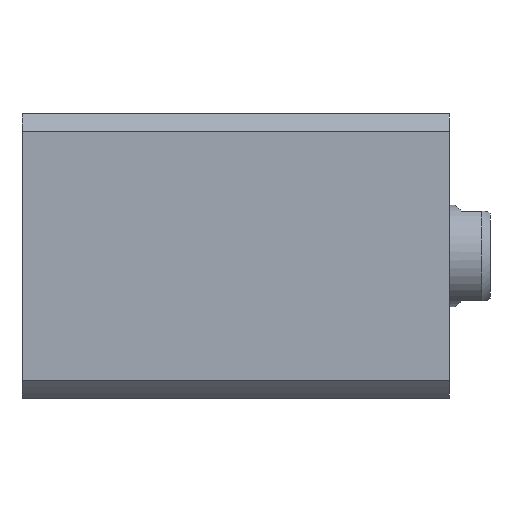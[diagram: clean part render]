
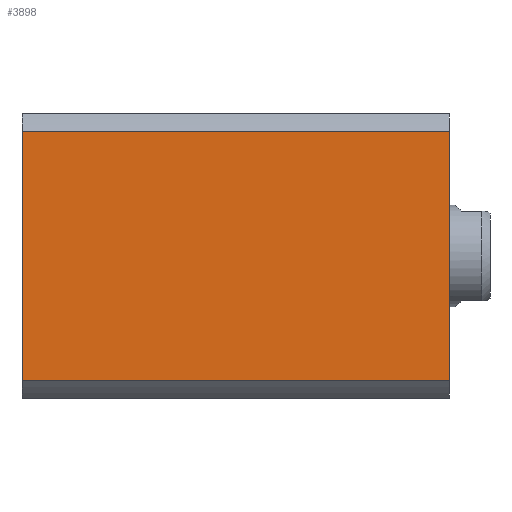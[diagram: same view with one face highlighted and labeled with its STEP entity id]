
A CAD part, left-side view. The second image highlights one B-rep face of the part: STEP entity #3898.
In plain terms, the highlighted planar face has unit normal (-1, 0, 0).
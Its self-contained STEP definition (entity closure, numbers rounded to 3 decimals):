
#107 = VECTOR ( 'NONE', #353, 1000. ) ;
#140 = CARTESIAN_POINT ( 'NONE',  ( -35., -30.615, 0. ) ) ;
#353 = DIRECTION ( 'NONE',  ( 0., -1., 0. ) ) ;
#478 = DIRECTION ( 'NONE',  ( 0., 1., 0. ) ) ;
#1538 = VECTOR ( 'NONE', #7499, 1000. ) ;
#1556 = FACE_OUTER_BOUND ( 'NONE', #7637, .T. ) ;
#1820 = EDGE_CURVE ( 'NONE', #7827, #5155, #6312, .T. ) ;
#1883 = CARTESIAN_POINT ( 'NONE',  ( -35., 35., 105. ) ) ;
#2199 = DIRECTION ( 'NONE',  ( 0., 0., 1. ) ) ;
#2263 = VECTOR ( 'NONE', #7771, 1000. ) ;
#2270 = ORIENTED_EDGE ( 'NONE', *, *, #9639, .T. ) ;
#2870 = CARTESIAN_POINT ( 'NONE',  ( -35., -30.615, 300. ) ) ;
#2954 = ORIENTED_EDGE ( 'NONE', *, *, #9985, .F. ) ;
#3210 = ORIENTED_EDGE ( 'NONE', *, *, #1820, .F. ) ;
#3226 = VERTEX_POINT ( 'NONE', #140 ) ;
#3398 = CARTESIAN_POINT ( 'NONE',  ( -35., 30.615, 0. ) ) ;
#3446 = ORIENTED_EDGE ( 'NONE', *, *, #4612, .F. ) ;
#3898 = ADVANCED_FACE ( 'NONE', ( #1556 ), #9738, .F. ) ;
#4612 = EDGE_CURVE ( 'NONE', #8824, #7827, #4844, .T. ) ;
#4844 = LINE ( 'NONE', #6060, #6637 ) ;
#5147 = DIRECTION ( 'NONE',  ( 1., 0., 0. ) ) ;
#5155 = VERTEX_POINT ( 'NONE', #8271 ) ;
#5677 = LINE ( 'NONE', #2870, #1538 ) ;
#6060 = CARTESIAN_POINT ( 'NONE',  ( -35., 30.615, 300. ) ) ;
#6312 = LINE ( 'NONE', #1883, #107 ) ;
#6637 = VECTOR ( 'NONE', #2199, 1000. ) ;
#6996 = CARTESIAN_POINT ( 'NONE',  ( -35., 35., 0. ) ) ;
#7429 = CARTESIAN_POINT ( 'NONE',  ( -35., 35., 105. ) ) ;
#7499 = DIRECTION ( 'NONE',  ( 0., 0., -1. ) ) ;
#7637 = EDGE_LOOP ( 'NONE', ( #2954, #3210, #3446, #2270 ) ) ;
#7771 = DIRECTION ( 'NONE',  ( 0., -1., 0. ) ) ;
#7827 = VERTEX_POINT ( 'NONE', #7869 ) ;
#7869 = CARTESIAN_POINT ( 'NONE',  ( -35., 30.615, 105. ) ) ;
#8271 = CARTESIAN_POINT ( 'NONE',  ( -35., -30.615, 105. ) ) ;
#8427 = LINE ( 'NONE', #6996, #2263 ) ;
#8824 = VERTEX_POINT ( 'NONE', #3398 ) ;
#9535 = AXIS2_PLACEMENT_3D ( 'NONE', #7429, #5147, #478 ) ;
#9639 = EDGE_CURVE ( 'NONE', #8824, #3226, #8427, .T. ) ;
#9738 = PLANE ( 'NONE',  #9535 ) ;
#9985 = EDGE_CURVE ( 'NONE', #5155, #3226, #5677, .T. ) ;
